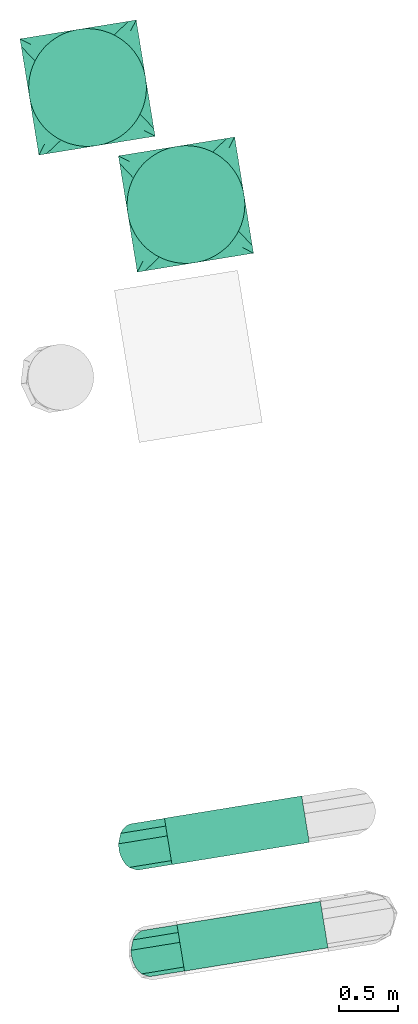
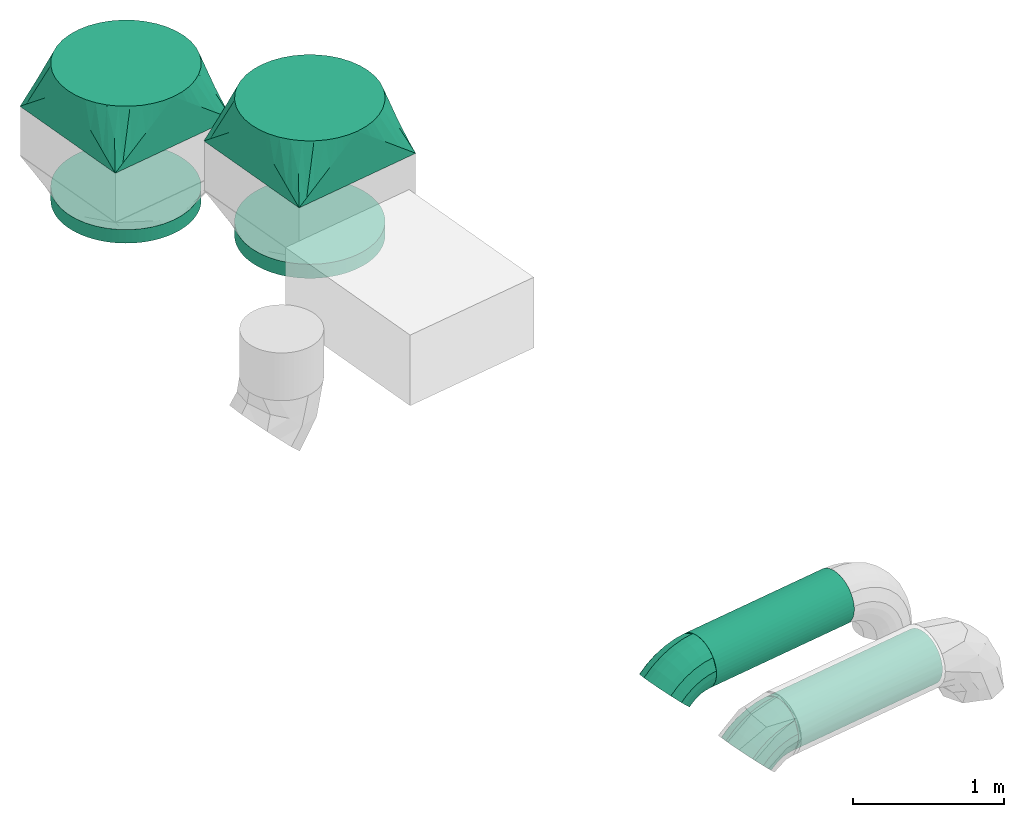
# One storey, part 3 of 6: 4 flow fittings, 4 flow segments.
"""IFC2X3 building model written with IfcOpenShell, lengths in millimetres."""

import ifcopenshell
import ifcopenshell.guid

model = None  # the IFC model being written
_history = None  # IfcOwnerHistory: only IFC2X3 demands one
_inside = {}  # id of a spatial element -> (the spatial element, [elements in it])
_under = {}  # id of a project, library or spatial element -> (it, [spatial elements below it])
_declared = {}  # id of a project -> (the project, [libraries it declares])
_typed = {}  # id of a type object -> (the type object, [elements of that type])
_made_of = {}  # id of a material, layer set ... -> (it, [elements and type objects made of it])


def new_model(schema):
    """Start an empty IFC model of exactly this schema.

    Asked for "IFC4X3", IfcOpenShell would pick the latest addendum, in which some entities
    have other attributes; the version numbers below select the first issue.
    IFC2X3 requires an IfcOwnerHistory on every rooted entity: one is made here for all.
    """
    global model, _history
    if schema == "IFC4X3":
        model = ifcopenshell.file(schema_version=(4, 3, 0, 0))
    else:
        model = ifcopenshell.file(schema=schema)
    _inside.clear()
    _under.clear()
    _declared.clear()
    _typed.clear()
    _made_of.clear()
    _history = None
    if model.schema == "IFC2X3":
        org = make("IfcOrganization", Name="unknown")
        user = make(
            "IfcPersonAndOrganization",
            ThePerson=make("IfcPerson", FamilyName="unknown"),
            TheOrganization=org,
        )
        app = make(
            "IfcApplication",
            ApplicationDeveloper=org,
            Version="unknown",
            ApplicationFullName="unknown",
            ApplicationIdentifier="unknown",
        )
        _history = make(
            "IfcOwnerHistory",
            OwningUser=user,
            OwningApplication=app,
            ChangeAction="ADDED",
            CreationDate=0,
        )
    return model


def make(cls, **values):
    """One entity of the class cls with the attributes given. An attribute that is None is left unset."""
    return model.create_entity(
        cls, **{name: value for name, value in values.items() if value is not None}
    )


def entity(cls, *values):
    """Any entity or typed value of the class cls, its attributes in the order of the schema. None: left unset."""
    e = model.create_entity(cls)
    for i, value in enumerate(values):
        if value is not None:
            e[i] = value
    return e


def rooted(cls, **values):
    """An entity with a GlobalId (a new one), such as an element, a storey or a relation."""
    return make(cls, GlobalId=ifcopenshell.guid.new(), OwnerHistory=_history, **values)


def si_unit(unit_type, name, prefix=None):
    """IfcSIUnit, for example si_unit("LENGTHUNIT", "METRE", prefix="MILLI")."""
    return make("IfcSIUnit", UnitType=unit_type, Prefix=prefix, Name=name)


def converted_unit(unit_type, name, factor, base, dimensions=None, offset=None):
    """IfcConversionBasedUnit, such as the inch: factor (a typed value) times the base unit."""
    return make(
        "IfcConversionBasedUnit"
        if offset is None
        else "IfcConversionBasedUnitWithOffset",
        ConversionOffset=offset,
        Dimensions=None
        if dimensions is None
        else entity("IfcDimensionalExponents", *dimensions),
        UnitType=unit_type,
        Name=name,
        ConversionFactor=make(
            "IfcMeasureWithUnit", ValueComponent=factor, UnitComponent=base
        ),
    )


def derived_unit(unit_type, elements):
    """IfcDerivedUnit: a product of units, each with its exponent."""
    return make(
        "IfcDerivedUnit",
        Elements=[
            make("IfcDerivedUnitElement", Unit=unit, Exponent=power)
            for unit, power in elements
        ],
        UnitType=unit_type,
    )


def assignment(units):
    """IfcUnitAssignment: the units of a project."""
    return None if units is None else make("IfcUnitAssignment", Units=units)


def point(xyz):
    """IfcCartesianPoint."""
    return None if xyz is None else make("IfcCartesianPoint", Coordinates=xyz)


def direction(xyz):
    """IfcDirection."""
    return None if xyz is None else make("IfcDirection", DirectionRatios=xyz)


def frame(location, z_axis=None, x_axis=None):
    """IfcAxis2Placement3D, a coordinate frame: its origin and axes. An axis left out is left unset."""
    return make(
        "IfcAxis2Placement3D",
        Location=point(location),
        Axis=direction(z_axis),
        RefDirection=direction(x_axis),
    )


def frame_2d(location, x_axis=None):
    """IfcAxis2Placement2D, a coordinate frame in the plane: its origin and x axis."""
    return make(
        "IfcAxis2Placement2D", Location=point(location), RefDirection=direction(x_axis)
    )


def origin():
    """The frame at (0, 0, 0) with its axes left unset."""
    return frame((0.0, 0.0, 0.0))


def origin_with_axes():
    """The frame at (0, 0, 0) with the z axis (0, 0, 1) and the x axis (1, 0, 0) written out."""
    return frame((0.0, 0.0, 0.0), z_axis=(0.0, 0.0, 1.0), x_axis=(1.0, 0.0, 0.0))


def origin_2d_with_axis():
    """The frame at (0, 0) in the plane with the x axis (1, 0) written out."""
    return frame_2d((0.0, 0.0), x_axis=(1.0, 0.0))


def place(relative_to, where):
    """IfcLocalPlacement: puts the frame where relative to a parent placement (None: the world)."""
    return make(
        "IfcLocalPlacement", PlacementRelTo=relative_to, RelativePlacement=where
    )


def context(
    kind, dimensions, precision=None, world=None, true_north=None, identifier=None
):
    """IfcGeometricRepresentationContext, for example the 3D "Model" context."""
    return make(
        "IfcGeometricRepresentationContext",
        ContextIdentifier=identifier,
        ContextType=kind,
        CoordinateSpaceDimension=dimensions,
        Precision=precision,
        WorldCoordinateSystem=world,
        TrueNorth=true_north,
    )


def subcontext(parent, identifier, kind, view, scale=None):
    """IfcGeometricRepresentationSubContext, for example "Body" below "Model"."""
    return make(
        "IfcGeometricRepresentationSubContext",
        ContextIdentifier=identifier,
        ContextType=kind,
        ParentContext=parent,
        TargetScale=scale,
        TargetView=view,
    )


def project(units=None, contexts=None):
    """IfcProject with its units and contexts."""
    return rooted(
        "IfcProject",
        Name="project",
        RepresentationContexts=contexts,
        UnitsInContext=assignment(units),
    )


def spatial(cls, under=None, at=None, **own):
    """A site, building, storey or space (cls), placed at a placement, below another one or the project."""
    s = rooted(cls, ObjectPlacement=at, **own)
    if under is not None:
        _under.setdefault(under.id(), (under, []))[1].append(s)
    return s


def profile(cls, at=None, kind="AREA", **sizes):
    """A parametric profile (cls). Its sizes go by their IFC names, for example OverallWidth=200.0."""
    return make(cls, ProfileType=kind, Position=at, **sizes)


def circle(**sizes):
    """IfcCircleProfileDef."""
    return profile("IfcCircleProfileDef", **sizes)


def extrude(swept, where, along, depth):
    """IfcExtrudedAreaSolid: the profile swept, set in the frame where, extruded along a direction by depth."""
    return make(
        "IfcExtrudedAreaSolid",
        SweptArea=swept,
        Position=where,
        ExtrudedDirection=direction(along),
        Depth=depth,
    )


def faces_of(points, faces, orient=None, outer=None):
    """IfcFace entities. A face is a list of loops; a loop is a list of indices into points, from 0.

    orient and outer hold one flag for each loop. By default every Orientation is true, the
    first loop of a face is its IfcFaceOuterBound and the others are IfcFaceBound.
    """
    made = []
    for i, loops in enumerate(faces):
        bounds = []
        for j, loop in enumerate(loops):
            is_outer = j == 0 if outer is None else outer[i][j]
            bounds.append(
                make(
                    "IfcFaceOuterBound" if is_outer else "IfcFaceBound",
                    Bound=make("IfcPolyLoop", Polygon=[points[k] for k in loop]),
                    Orientation=True if orient is None else orient[i][j],
                )
            )
        made.append(make("IfcFace", Bounds=bounds))
    return made


def faceted_brep(points, faces, orient=None, outer=None, voids=None):
    """IfcFacetedBrep: a solid bounded by flat faces; with voids (closed shells), ...WithVoids."""
    shared = [point(p) for p in points]
    hull = make("IfcClosedShell", CfsFaces=faces_of(shared, faces, orient, outer))
    if voids is None:
        return make("IfcFacetedBrep", Outer=hull)
    return make(
        "IfcFacetedBrepWithVoids",
        Outer=hull,
        Voids=[
            make(cls, CfsFaces=faces_of(shared, fs, o, b)) for cls, fs, o, b in voids
        ],
    )


def shape(context_of_items, identifier, shape_type, items):
    """IfcShapeRepresentation: the items that make up one representation, for example the "Body"."""
    return make(
        "IfcShapeRepresentation",
        ContextOfItems=context_of_items,
        RepresentationIdentifier=identifier,
        RepresentationType=shape_type,
        Items=items,
    )


def source(mapping_origin, context_of_items, identifier, shape_type, items):
    """IfcRepresentationMap: a shape defined once, which mapped items show again and again."""
    return make(
        "IfcRepresentationMap",
        MappingOrigin=mapping_origin,
        MappedRepresentation=shape(context_of_items, identifier, shape_type, items),
    )


def transform(
    local_origin,
    x_axis=None,
    y_axis=None,
    z_axis=None,
    scale=None,
    scale2=None,
    scale3=None,
    uniform=True,
):
    """IfcCartesianTransformationOperator3D, or its non-uniform kind. x_axis, y_axis, z_axis: its Axis1, 2, 3."""
    if uniform:
        return make(
            "IfcCartesianTransformationOperator3D",
            Axis1=direction(x_axis),
            Axis2=direction(y_axis),
            LocalOrigin=point(local_origin),
            Scale=scale,
            Axis3=direction(z_axis),
        )
    return make(
        "IfcCartesianTransformationOperator3DnonUniform",
        Axis1=direction(x_axis),
        Axis2=direction(y_axis),
        LocalOrigin=point(local_origin),
        Scale=scale,
        Axis3=direction(z_axis),
        Scale2=scale2,
        Scale3=scale3,
    )


def mapped(mapping_source, mapping_target):
    """IfcMappedItem: shows the shape of a source again, moved by a transform."""
    return make(
        "IfcMappedItem", MappingSource=mapping_source, MappingTarget=mapping_target
    )


def material(Name=None, Category=None):
    """IfcMaterial."""
    return make("IfcMaterial", Name=Name, Category=Category)


def made_of(thing, what):
    """Note that an element or type object is made of a material, layer set ...; save() writes the relation."""
    if what is not None:
        _made_of.setdefault(what.id(), (what, []))[1].append(thing)
    return thing


def type_object(cls, material=None, **own):
    """A type object (cls), such as IfcWallType, which elements share."""
    return made_of(rooted(cls, **own), material)


def element(
    cls,
    number,
    at=None,
    inside=None,
    cuts=None,
    type_object=None,
    material=None,
    context=None,
    identifier="Body",
    shape_type=None,
    held_by="IfcProductDefinitionShape",
    body=None,
    shapes=None,
    **own,
):
    """One element of the class cls, such as IfcWall. Its Tag is "e" and its number.

    at: its placement. inside: the storey or other place that contains it. cuts: it is an
    opening in that element (IfcRelVoidsElement). A single representation is given by context,
    identifier, shape_type and body (its items); several are given by shapes. held_by: the class
    of the entity that holds the representations. save() writes the other relations.
    """
    e = rooted(cls, Tag="e%d" % number, ObjectPlacement=at, **own)
    if body is not None:
        shapes = [shape(context, identifier, shape_type, body)]
    if shapes is not None:
        e.Representation = make(held_by, Representations=shapes)
    if inside is not None:
        _inside.setdefault(inside.id(), (inside, []))[1].append(e)
    if cuts is not None:
        rooted(
            "IfcRelVoidsElement", RelatingBuildingElement=cuts, RelatedOpeningElement=e
        )
    if type_object is not None:
        _typed.setdefault(type_object.id(), (type_object, []))[1].append(e)
    return made_of(e, material)


def aggregate(whole, parts):
    """IfcRelAggregates: a whole, such as a stair, and the parts it consists of."""
    return rooted("IfcRelAggregates", RelatingObject=whole, RelatedObjects=parts)


def save(model, path):
    """Write the relations noted so far, then the file.

    IfcRelAggregates (storeys below a building ...), IfcRelContainedInSpatialStructure (elements
    in a storey), IfcRelDefinesByType, IfcRelAssociatesMaterial and IfcRelDeclares: one each for
    every whole, place, type object, material and project.
    """
    for whole, parts in _under.values():
        aggregate(whole, parts)
    for where, things in _inside.values():
        rooted(
            "IfcRelContainedInSpatialStructure",
            RelatedElements=things,
            RelatingStructure=where,
        )
    for kind, things in _typed.values():
        rooted("IfcRelDefinesByType", RelatedObjects=things, RelatingType=kind)
    for what, things in _made_of.values():
        rooted("IfcRelAssociatesMaterial", RelatedObjects=things, RelatingMaterial=what)
    for by, libraries in _declared.values():
        rooted("IfcRelDeclares", RelatingContext=by, RelatedDefinitions=libraries)
    model.write(path)


model = new_model("IFC2X3")

# Units and contexts
model_context = context("Model", 3, precision=0.01, world=origin(), true_north=direction((6.12323399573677e-17, 1.0)))
plan_context = context("Plan", 3, precision=1e-05, world=origin_with_axes())
body_context = subcontext(model_context, "Body", "Model", "MODEL_VIEW")
ifc_project = project(units=[converted_unit("PLANEANGLEUNIT", "DEGREE", entity("IfcPositiveLengthMeasure", 0.0174532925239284), si_unit("PLANEANGLEUNIT", "RADIAN"), dimensions=[0, 0, 0, 0, 0, 0, 0]), si_unit("AREAUNIT", "SQUARE_METRE"), si_unit("LENGTHUNIT", "METRE", prefix="MILLI"), si_unit("MASSUNIT", "GRAM", prefix="KILO"), si_unit("POWERUNIT", "WATT"), si_unit("PRESSUREUNIT", "PASCAL", prefix="KILO"), si_unit("FORCEUNIT", "NEWTON", prefix="KILO"), si_unit("ELECTRICVOLTAGEUNIT", "VOLT"), si_unit("ELECTRICCURRENTUNIT", "AMPERE"), si_unit("THERMODYNAMICTEMPERATUREUNIT", "DEGREE_CELSIUS"), si_unit("TIMEUNIT", "SECOND"), si_unit("VOLUMEUNIT", "CUBIC_METRE"), derived_unit("LINEARVELOCITYUNIT", [(si_unit("LENGTHUNIT", "METRE"), 1), (si_unit("TIMEUNIT", "SECOND"), -1)]), derived_unit("VOLUMETRICFLOWRATEUNIT", [(si_unit("VOLUMEUNIT", "CUBIC_METRE"), 1), (si_unit("TIMEUNIT", "SECOND"), -1)]), derived_unit("THERMALTRANSMITTANCEUNIT", [(si_unit("POWERUNIT", "WATT"), 1), (si_unit("THERMODYNAMICTEMPERATUREUNIT", "KELVIN"), -1), (si_unit("AREAUNIT", "SQUARE_METRE"), -1)]), derived_unit("SOUNDPRESSUREUNIT", [(si_unit("PRESSUREUNIT", "PASCAL"), 1)])], contexts=[model_context, plan_context])

# Site, building, storey
site_placement = place(None, frame((-0.00071070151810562, 0.00438415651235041, 0.0), z_axis=(0.0, 0.0, 1.0), x_axis=(-0.160236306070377, 0.987078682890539, 0.0)))
site = spatial("IfcSite", under=ifc_project, at=site_placement, Name="Default", CompositionType="ELEMENT")
building_placement = place(site_placement, origin_with_axes())
building = spatial("IfcBuilding", under=site, at=building_placement, CompositionType="ELEMENT")
storey_placement = place(building_placement, frame((0.0, 0.0, 48160.0), z_axis=(0.0, 0.0, 1.0), x_axis=(1.0, 0.0, 0.0)))
storey = spatial("IfcBuildingStorey", under=building, at=storey_placement, Name="Nivå C", CompositionType="ELEMENT", Elevation=48160.0)

# Flow fittings
ifc_material_1 = material(Name="<Unnamed>")
duct_fitting_type_1 = type_object("IfcDuctFittingType", Name="magicirc_elbow_full_radius_1:magicirc_elbow_full_radius_001", PredefinedType="NOTDEFINED", material=ifc_material_1)
shared_shape_1 = source(origin(), body_context, "Body", "Brep", [
    faceted_brep([(-71.8247459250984, -192.613004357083, 0.0), (-72.7338861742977, -186.872918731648, 47.8631328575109), (-165.685424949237, -194.188363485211, 47.8631328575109), (-165.685424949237, -200.0, 0.0), (-75.4084709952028, -169.986254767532, 92.9446344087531), (-165.685424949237, -177.091205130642, 92.9446344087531), (-79.6930632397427, -142.934403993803, 132.624531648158), (-165.685424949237, -149.702149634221, 132.624531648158), (-85.338657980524, -107.289521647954, 164.596773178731), (-165.685424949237, -113.612949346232, 164.596773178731), (-99.3404207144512, -18.8858709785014, 198.541774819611), (-165.685424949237, -24.1073360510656, 198.541774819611), (-106.882857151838, 28.7351985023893, 198.541774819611), (-165.685424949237, 24.1073360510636, 198.541774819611), (-114.206124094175, 74.9724862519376, 187.003248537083), (-165.685424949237, 70.9209774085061, 187.003248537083), (-120.884619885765, 117.138849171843, 164.596773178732), (-165.685424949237, 113.61294934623, 164.596773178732), (-126.530214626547, 152.783731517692, 132.62453164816), (-165.685424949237, 149.702149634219, 132.62453164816), (-133.489391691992, 196.722246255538, 47.8631328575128), (-165.685424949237, 194.18836348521, 47.8631328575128), (-134.398531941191, 202.462331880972, 0.0), (-165.685424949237, 200.0, 0.0), (-133.489391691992, 196.722246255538, -47.8631328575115), (-165.685424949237, 194.18836348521, -47.8631328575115), (-130.814806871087, 179.835582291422, -92.9446344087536), (-165.685424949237, 177.091205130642, -92.9446344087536), (-126.530214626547, 152.783731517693, -132.624531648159), (-165.685424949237, 149.70214963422, -132.624531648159), (-120.884619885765, 117.138849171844, -164.596773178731), (-165.685424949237, 113.612949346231, -164.596773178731), (-106.882857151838, 28.7351985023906, -198.541774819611), (-165.685424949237, 24.1073360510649, -198.541774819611), (-99.3404207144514, -18.8858709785, -198.541774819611), (-165.685424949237, -24.1073360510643, -198.541774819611), (-92.0171537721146, -65.1231587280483, -187.003248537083), (-165.685424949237, -70.9209774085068, -187.003248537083), (-85.3386579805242, -107.289521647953, -164.596773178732), (-165.685424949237, -113.612949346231, -164.596773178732), (-79.6930632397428, -142.934403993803, -132.624531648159), (-165.685424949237, -149.70214963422, -132.624531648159), (-72.7338861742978, -186.872918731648, -47.8631328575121), (-165.685424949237, -194.18836348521, -47.8631328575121), (19.7247716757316, -170.633909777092, 0.0), (17.9288772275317, -165.106714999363, 47.8631328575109), (12.6455647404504, -148.84635113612, 92.9446344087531), (4.18188113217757, -122.797811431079, 132.624531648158), (-6.97029507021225, -88.4749423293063, 164.596773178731), (-34.629050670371, -3.3500455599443, 198.541774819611), (-49.5282037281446, 42.5048325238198, 198.541774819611), (-63.9944144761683, 87.0272511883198, 187.003248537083), (-77.1869593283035, 127.629729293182, 164.596773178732), (-88.3391355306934, 161.952598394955, 132.62453164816), (-102.086131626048, 204.26150196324, 47.8631328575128), (-103.882026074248, 209.788696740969, 0.0), (-102.086131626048, 204.26150196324, -47.8631328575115), (-96.8028191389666, 188.001138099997, -92.9446344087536), (-88.3391355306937, 161.952598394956, -132.624531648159), (-77.1869593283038, 127.629729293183, -164.596773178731), (-49.528203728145, 42.5048325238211, -198.541774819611), (-34.6290506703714, -3.35004555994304, -198.541774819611), (-20.1628399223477, -47.872464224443, -187.003248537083), (-6.9702950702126, -88.4749423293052, -164.596773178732), (4.1818811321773, -122.797811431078, -132.624531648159), (17.9288772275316, -165.106714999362, -47.8631328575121), (106.708874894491, -134.60391451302, 0.0), (104.070447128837, -129.425708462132, 47.8631328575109), (96.3084996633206, -114.19202882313, 92.9446344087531), (83.874128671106, -89.7882016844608, 132.624531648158), (67.4899745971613, -57.632488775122, 164.596773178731), (26.8552764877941, 22.1175966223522, 198.541774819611), (4.96627340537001, 65.0771840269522, 198.541774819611), (-16.2866750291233, 106.788443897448, 187.003248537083), (-35.6684247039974, 144.827269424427, 164.596773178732), (-52.0525787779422, 176.982982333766, 132.62453164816), (-72.2488972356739, 216.620489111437, 47.8631328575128), (-74.887325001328, 221.798695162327, 0.0), (-72.2488972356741, 216.620489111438, -47.8631328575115), (-64.4869497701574, 201.386809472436, -92.9446344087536), (-52.0525787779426, 176.982982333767, -132.624531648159), (-35.6684247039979, 144.827269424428, -164.596773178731), (4.96627340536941, 65.0771840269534, -198.541774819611), (26.8552764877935, 22.1175966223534, -198.541774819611), (48.1082249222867, -19.5936632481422, -187.003248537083), (67.4899745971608, -57.632488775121, -164.596773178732), (83.8741286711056, -89.78820168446, -132.624531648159), (104.070447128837, -129.425708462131, -47.8631328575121), (186.985726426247, -85.4101966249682, 0.0), (183.569732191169, -80.7084839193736, 47.8631328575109), (173.520274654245, -66.8765922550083, 92.9446344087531), (157.421391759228, -44.7183808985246, 132.624531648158), (136.208692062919, -15.5216045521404, 164.596773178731), (83.5986125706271, 56.8899576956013, 198.541774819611), (55.2587393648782, 95.8964468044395, 198.541774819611), (27.7423713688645, 133.769478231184, 187.003248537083), (2.64865987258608, 168.308009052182, 164.596773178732), (-18.5640398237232, 197.504785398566, 132.62453164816), (-44.7123802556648, 233.494888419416, 47.8631328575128), (-48.1283744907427, 238.196601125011, 0.0), (-44.712380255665, 233.494888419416, -47.8631328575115), (-34.6629227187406, 219.66299675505, -92.9446344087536), (-18.5640398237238, 197.504785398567, -132.624531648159), (2.64865987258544, 168.308009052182, -164.596773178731), (55.2587393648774, 95.8964468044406, -198.541774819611), (83.5986125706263, 56.8899576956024, -198.541774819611), (111.11498056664, 19.0169262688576, -187.003248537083), (136.208692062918, -15.5216045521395, -164.596773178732), (157.421391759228, -44.7183808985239, -132.624531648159), (183.569732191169, -80.7084839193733, -47.8631328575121), (258.578643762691, -24.2640687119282, 0.0), (254.469196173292, -20.1546211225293, 47.8631328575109), (242.379679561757, -8.06510451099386, 92.9446344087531), (223.012692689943, 11.3018823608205, 132.624531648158), (197.493774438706, 36.820800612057, 164.596773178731), (134.203748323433, 100.11082672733, 198.541774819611), (100.110826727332, 134.203748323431, 198.541774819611), (67.0085834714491, 167.305991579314, 187.003248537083), (36.8208006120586, 197.493774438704, 164.596773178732), (11.3018823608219, 223.012692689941, 132.62453164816), (-20.1546211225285, 254.469196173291, 47.8631328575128), (-24.2640687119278, 258.578643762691, 0.0), (-20.1546211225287, 254.469196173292, -47.8631328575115), (-8.0651045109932, 242.379679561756, -92.9446344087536), (11.3018823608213, 223.012692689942, -132.624531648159), (36.8208006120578, 197.493774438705, -164.596773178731), (100.110826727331, 134.203748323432, -198.541774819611), (134.203748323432, 100.110826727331, -198.541774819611), (167.305991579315, 67.0085834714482, -187.003248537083), (197.493774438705, 36.8208006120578, -164.596773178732), (223.012692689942, 11.3018823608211, -132.624531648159), (254.469196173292, -20.1546211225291, -47.8631328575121)], [[[0, 1, 2, 3]], [[1, 4, 5, 2]], [[4, 6, 7, 5]], [[6, 8, 9, 7]], [[8, 10, 11, 9]], [[10, 12, 13, 11]], [[12, 14, 15, 13]], [[14, 16, 17, 15]], [[16, 18, 19, 17]], [[18, 20, 21, 19]], [[20, 22, 23, 21]], [[22, 24, 25, 23]], [[24, 26, 27, 25]], [[26, 28, 29, 27]], [[28, 30, 31, 29]], [[30, 32, 33, 31]], [[32, 34, 35, 33]], [[34, 36, 37, 35]], [[36, 38, 39, 37]], [[38, 40, 41, 39]], [[40, 42, 43, 41]], [[42, 0, 3, 43]], [[44, 45, 1, 0]], [[45, 46, 4, 1]], [[46, 47, 6, 4]], [[47, 48, 8, 6]], [[48, 49, 10, 8]], [[49, 50, 12, 10]], [[50, 51, 14, 12]], [[51, 52, 16, 14]], [[52, 53, 18, 16]], [[53, 54, 20, 18]], [[54, 55, 22, 20]], [[55, 56, 24, 22]], [[56, 57, 26, 24]], [[57, 58, 28, 26]], [[58, 59, 30, 28]], [[59, 60, 32, 30]], [[60, 61, 34, 32]], [[61, 62, 36, 34]], [[62, 63, 38, 36]], [[63, 64, 40, 38]], [[64, 65, 42, 40]], [[65, 44, 0, 42]], [[66, 67, 45, 44]], [[67, 68, 46, 45]], [[68, 69, 47, 46]], [[69, 70, 48, 47]], [[70, 71, 49, 48]], [[71, 72, 50, 49]], [[72, 73, 51, 50]], [[73, 74, 52, 51]], [[74, 75, 53, 52]], [[75, 76, 54, 53]], [[76, 77, 55, 54]], [[77, 78, 56, 55]], [[78, 79, 57, 56]], [[79, 80, 58, 57]], [[80, 81, 59, 58]], [[81, 82, 60, 59]], [[82, 83, 61, 60]], [[83, 84, 62, 61]], [[84, 85, 63, 62]], [[85, 86, 64, 63]], [[86, 87, 65, 64]], [[87, 66, 44, 65]], [[88, 89, 67, 66]], [[89, 90, 68, 67]], [[90, 91, 69, 68]], [[91, 92, 70, 69]], [[92, 93, 71, 70]], [[93, 94, 72, 71]], [[94, 95, 73, 72]], [[95, 96, 74, 73]], [[96, 97, 75, 74]], [[97, 98, 76, 75]], [[98, 99, 77, 76]], [[99, 100, 78, 77]], [[100, 101, 79, 78]], [[101, 102, 80, 79]], [[102, 103, 81, 80]], [[103, 104, 82, 81]], [[104, 105, 83, 82]], [[105, 106, 84, 83]], [[106, 107, 85, 84]], [[107, 108, 86, 85]], [[108, 109, 87, 86]], [[109, 88, 66, 87]], [[110, 111, 89, 88]], [[111, 112, 90, 89]], [[112, 113, 91, 90]], [[113, 114, 92, 91]], [[114, 115, 93, 92]], [[115, 116, 94, 93]], [[116, 117, 95, 94]], [[117, 118, 96, 95]], [[118, 119, 97, 96]], [[119, 120, 98, 97]], [[120, 121, 99, 98]], [[121, 122, 100, 99]], [[122, 123, 101, 100]], [[123, 124, 102, 101]], [[124, 125, 103, 102]], [[125, 126, 104, 103]], [[126, 127, 105, 104]], [[127, 128, 106, 105]], [[128, 129, 107, 106]], [[129, 130, 108, 107]], [[130, 131, 109, 108]], [[131, 110, 88, 109]], [[3, 2, 5, 7, 9, 11, 13, 15, 17, 19, 21, 23, 25, 27, 29, 31, 33, 35, 37, 39, 41, 43]], [[131, 130, 129, 128, 127, 126, 125, 124, 123, 122, 121, 120, 119, 118, 117, 116, 115, 114, 113, 112, 111, 110]]]),
])
for number, where, z_axis, x_axis, name in (
    (1, (771678.1172552, -595100.400360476, 1950.0), (-1.0, 0.0, 0.0), (0.0, 1.0, 0.0), "magicirc_elbow_full_radius_1:magicirc_elbow_full_radius_001"),
    (2, (772587.619644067, -595140.400360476, 1950.0), (-1.0, 0.0, 0.0), (0.0, 1.0, 0.0), "magicirc_elbow_full_radius_1:magicirc_elbow_full_radius_001"),
):
    element("IfcFlowFitting", number, at=place(storey_placement, frame(where, z_axis=z_axis, x_axis=x_axis)), inside=storey, type_object=duct_fitting_type_1, material=ifc_material_1, Name=name, ObjectType="magicirc_elbow_full_radius_1:magicirc_elbow_full_radius_001", context=body_context, shape_type="MappedRepresentation", body=[
        mapped(shared_shape_1, transform((0.0, 0.0, 0.0), scale=1.0)),
    ])
ifc_material_2 = material(Name="Material_Duct")
duct_fitting_type_2 = type_object("IfcDuctFittingType", Name="magicirc_multi_shape_trans_001:magicirc_multi_shape_trans_001", PredefinedType="NOTDEFINED", material=ifc_material_2)
shared_shape_2 = source(origin(), body_context, "Body", "Brep", [
    faceted_brep([(400.0, -293.892626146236, 404.508497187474), (400.0, -353.553390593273, 353.553390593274), (400.0, -404.508497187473, 293.892626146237), (400.0, -445.503262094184, 226.995249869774), (400.0, -475.528258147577, 154.508497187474), (400.0, -484.686214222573, 116.362864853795), (400.0, -493.844170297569, 78.2172325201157), (400.0, -496.200105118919, 48.2822423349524), (400.0, -500.0, 0.0), (400.0, -496.200105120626, -48.2822423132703), (400.0, -493.844170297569, -78.2172325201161), (400.0, -484.686214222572, -116.362864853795), (400.0, -475.528258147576, -154.508497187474), (400.0, -445.503262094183, -226.995249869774), (400.0, -404.508497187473, -293.892626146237), (400.0, -353.553390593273, -353.553390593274), (400.0, -293.892626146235, -404.508497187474), (400.0, -226.995249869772, -445.503262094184), (400.0, -154.508497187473, -475.528258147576), (400.0, -116.362864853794, -484.686214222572), (400.0, -78.2172325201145, -493.844170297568), (400.0, -48.2822423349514, -496.200105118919), (400.0, 0.0, -500.0), (400.0, 48.2822423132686, -496.200105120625), (400.0, 78.2172325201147, -493.844170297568), (400.0, 116.362864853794, -484.686214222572), (400.0, 154.508497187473, -475.528258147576), (400.0, 226.995249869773, -445.503262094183), (400.0, 293.892626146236, -404.508497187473), (400.0, 353.553390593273, -353.553390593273), (400.0, 404.508497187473, -293.892626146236), (400.0, 445.503262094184, -226.995249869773), (400.0, 475.528258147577, -154.508497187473), (400.0, 484.686214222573, -116.362864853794), (400.0, 493.844170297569, -78.2172325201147), (400.0, 496.200105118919, -48.2822423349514), (400.0, 500.0, 0.0), (400.0, 496.200105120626, 48.282242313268), (400.0, 493.844170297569, 78.2172325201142), (400.0, 484.686214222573, 116.362864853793), (400.0, 475.528258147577, 154.508497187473), (400.0, 445.503262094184, 226.995249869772), (400.0, 404.508497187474, 293.892626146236), (400.0, 353.553390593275, 353.553390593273), (400.0, 293.892626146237, 404.508497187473), (400.0, 226.995249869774, 445.503262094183), (400.0, 154.508497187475, 475.528258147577), (400.0, 116.362864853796, 484.686214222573), (400.0, 78.2172325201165, 493.844170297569), (400.0, 48.2822423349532, 496.200105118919), (400.0, 0.0, 500.0), (400.0, -48.2822423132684, 496.200105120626), (400.0, -78.2172325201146, 493.844170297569), (400.0, -116.362864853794, 484.686214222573), (400.0, -154.508497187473, 475.528258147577), (400.0, -226.995249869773, 445.503262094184), (0.0, -500.0, 500.0), (0.0, 500.0, 500.0), (0.0, 500.0, -500.0), (0.0, -500.0, -500.0), (52.0571133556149, -434.928608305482, 500.0), (200.000000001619, -415.753070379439, 437.152129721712), (208.228453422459, -239.714433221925, 500.0), (156.171340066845, -304.785824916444, 500.0), (104.11422671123, -369.857216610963, 500.0), (304.114223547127, -500.0, 119.857220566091), (256.171335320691, -500.0, 179.785830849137), (352.057113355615, -59.9286083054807, 500.0), (328.085670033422, -89.8929124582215, 500.0), (304.11422671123, -119.857216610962, 500.0), (256.171340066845, -179.785824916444, 500.0), (208.228447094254, -500.0, 239.714441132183), (104.114223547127, -500.0, 369.857220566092), (156.171335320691, -500.0, 304.785830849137), (52.0571117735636, -500.0, 434.928610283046), (328.085667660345, -500.0, 89.8929154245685), (352.057111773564, -500.0, 59.9286102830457), (52.0571133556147, -500.0, -434.928608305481), (104.11422671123, -500.0, -369.857216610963), (156.171340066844, -500.0, -304.785824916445), (208.228453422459, -500.0, -239.714433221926), (256.171340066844, -500.0, -179.785824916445), (304.114226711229, -500.0, -119.857216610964), (328.085670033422, -500.0, -89.8929124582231), (352.057113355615, -500.0, -59.9286083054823), (200.000000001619, -437.152129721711, -415.753070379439), (304.114223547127, -119.857220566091, -500.0), (256.17133532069, -179.785830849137, -500.0), (208.228447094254, -239.714441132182, -500.0), (104.114223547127, -369.857220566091, -500.0), (156.17133532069, -304.785830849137, -500.0), (52.0571117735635, -434.928610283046, -500.0), (328.085667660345, -89.8929154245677, -500.0), (352.057111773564, -59.9286102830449, -500.0), (52.0571133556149, 434.92860830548, -500.0), (104.11422671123, 369.857216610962, -500.0), (156.171340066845, 304.785824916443, -500.0), (208.228453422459, 239.714433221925, -500.0), (256.171340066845, 179.785824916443, -500.0), (304.11422671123, 119.857216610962, -500.0), (328.085670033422, 89.8929124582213, -500.0), (352.057113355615, 59.9286083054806, -500.0), (200.000000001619, 415.753070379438, -437.15212972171), (304.114223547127, 500.0, -119.85722056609), (256.171335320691, 500.0, -179.785830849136), (208.228447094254, 500.0, -239.714441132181), (104.114223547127, 500.0, -369.85722056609), (156.171335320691, 500.0, -304.785830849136), (52.0571117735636, 500.0, -434.928610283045), (328.085667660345, 500.0, -89.8929154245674), (352.057111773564, 500.0, -59.9286102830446), (52.0571133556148, 500.0, 434.928608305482), (104.11422671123, 500.0, 369.857216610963), (156.171340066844, 500.0, 304.785824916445), (208.228453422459, 500.0, 239.714433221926), (256.171340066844, 500.0, 179.785824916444), (304.11422671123, 500.0, 119.857216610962), (328.085670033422, 500.0, 89.8929124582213), (352.057113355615, 500.0, 59.9286083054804), (200.000000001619, 437.152129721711, 415.753070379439), (304.114223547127, 119.857220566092, 500.0), (256.171335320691, 179.785830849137, 500.0), (208.228447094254, 239.714441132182, 500.0), (104.114223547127, 369.857220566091, 500.0), (156.171335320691, 304.785830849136, 500.0), (52.0571117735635, 434.928610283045, 500.0), (328.085667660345, 89.8929154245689, 500.0), (352.057111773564, 59.9286102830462, 500.0)], [[[0, 1, 2, 3, 4, 5, 6, 7, 8, 9, 10, 11, 12, 13, 14, 15, 16, 17, 18, 19, 20, 21, 22, 23, 24, 25, 26, 27, 28, 29, 30, 31, 32, 33, 34, 35, 36, 37, 38, 39, 40, 41, 42, 43, 44, 45, 46, 47, 48, 49, 50, 51, 52, 53, 54, 55]], [[56, 57, 58, 59]], [[0, 60, 61]], [[55, 62, 63, 64]], [[65, 5, 66]], [[52, 51, 50, 67, 68, 69]], [[53, 52, 69]], [[54, 62, 55]], [[53, 70, 54]], [[4, 71, 66]], [[66, 5, 4]], [[60, 56, 61]], [[3, 72, 73, 71]], [[70, 62, 54]], [[61, 74, 1]], [[4, 3, 71]], [[75, 76, 8, 7, 6, 65]], [[2, 74, 72]], [[64, 0, 55]], [[65, 6, 5]], [[70, 53, 69]], [[0, 64, 60]], [[74, 2, 1]], [[0, 61, 1]], [[61, 56, 74]], [[72, 3, 2]], [[76, 75, 65, 66, 71, 73, 72, 74, 56, 59, 77, 78, 79, 80, 81, 82, 83, 84, 8]], [[14, 77, 85]], [[13, 80, 79, 78]], [[86, 19, 87]], [[10, 9, 8, 84, 83, 82]], [[11, 10, 82]], [[12, 80, 13]], [[11, 81, 12]], [[18, 88, 87]], [[87, 19, 18]], [[77, 59, 85]], [[17, 89, 90, 88]], [[81, 80, 12]], [[85, 91, 15]], [[18, 17, 88]], [[92, 93, 22, 21, 20, 86]], [[16, 91, 89]], [[78, 14, 13]], [[86, 20, 19]], [[81, 11, 82]], [[14, 78, 77]], [[91, 16, 15]], [[14, 85, 15]], [[85, 59, 91]], [[89, 17, 16]], [[59, 58, 94, 95, 96, 97, 98, 99, 100, 101, 22, 93, 92, 86, 87, 88, 90, 89, 91]], [[28, 94, 102]], [[27, 97, 96, 95]], [[103, 33, 104]], [[24, 23, 22, 101, 100, 99]], [[25, 24, 99]], [[26, 97, 27]], [[25, 98, 26]], [[32, 105, 104]], [[104, 33, 32]], [[94, 58, 102]], [[31, 106, 107, 105]], [[98, 97, 26]], [[102, 108, 29]], [[32, 31, 105]], [[109, 110, 36, 35, 34, 103]], [[30, 108, 106]], [[95, 28, 27]], [[103, 34, 33]], [[98, 25, 99]], [[28, 95, 94]], [[108, 30, 29]], [[28, 102, 29]], [[102, 58, 108]], [[106, 31, 30]], [[58, 57, 111, 112, 113, 114, 115, 116, 117, 118, 36, 110, 109, 103, 104, 105, 107, 106, 108]], [[42, 111, 119]], [[41, 114, 113, 112]], [[120, 47, 121]], [[38, 37, 36, 118, 117, 116]], [[39, 38, 116]], [[40, 114, 41]], [[39, 115, 40]], [[46, 122, 121]], [[121, 47, 46]], [[111, 57, 119]], [[45, 123, 124, 122]], [[115, 114, 40]], [[119, 125, 43]], [[46, 45, 122]], [[126, 127, 50, 49, 48, 120]], [[44, 125, 123]], [[112, 42, 41]], [[120, 48, 47]], [[115, 39, 116]], [[42, 112, 111]], [[125, 44, 43]], [[42, 119, 43]], [[119, 57, 125]], [[123, 45, 44]], [[57, 56, 60, 64, 63, 62, 70, 69, 68, 67, 50, 127, 126, 120, 121, 122, 124, 123, 125]]]),
])
flow_fitting_1_placement = place(storey_placement, frame((777903.00966992, -596321.533015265, 2779.2463069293), z_axis=(0.0, 1.0, 0.0), x_axis=(0.0, 0.0, 1.0)))
element("IfcFlowFitting", 3, at=flow_fitting_1_placement, inside=storey, type_object=duct_fitting_type_2, material=ifc_material_2, Name="magicirc_multi_shape_trans_001:magicirc_multi_shape_trans_001", ObjectType="magicirc_multi_shape_trans_001:magicirc_multi_shape_trans_001", context=body_context, shape_type="MappedRepresentation", body=[
    mapped(shared_shape_2, transform((0.0, 0.0, 0.0), scale=1.0)),
])
duct_fitting_type_3 = type_object("IfcDuctFittingType", Name="magicirc_multi_shape_trans_001:magicirc_multi_shape_trans_001", PredefinedType="NOTDEFINED", material=ifc_material_2)
flow_fitting_2_placement = place(storey_placement, frame((779017.739744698, -595655.667976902, 2749.99970332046), z_axis=(0.999999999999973, 1.54928430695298e-30, 2.34121225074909e-07), x_axis=(-2.34121225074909e-07, 6.61744490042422e-24, 0.999999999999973)))
element("IfcFlowFitting", 4, at=flow_fitting_2_placement, inside=storey, type_object=duct_fitting_type_3, material=ifc_material_2, Name="magicirc_multi_shape_trans_001:magicirc_multi_shape_trans_001", ObjectType="magicirc_multi_shape_trans_001:magicirc_multi_shape_trans_001", context=body_context, shape_type="MappedRepresentation", body=[
    mapped(shared_shape_2, transform((0.0, 0.0, 0.0), scale=1.0)),
])

# Flow segments
duct_segment_type = type_object("IfcDuctSegmentType", Name="Round Duct:KK001T - Spiro kanaler, Forsinket stål", PredefinedType="NOTDEFINED")
flow_segment_1_placement = place(storey_placement, origin_with_axes())
element("IfcFlowSegment", 5, at=flow_segment_1_placement, inside=storey, type_object=duct_segment_type, Name="Round Duct:KK001T - Spiro kanaler, Forsinket stål", ObjectType="Round Duct:KK001T - Spiro kanaler, Forsinket stål", context=body_context, shape_type="SweptSolid", body=[
    extrude(circle(Radius=500.0, at=frame_2d((0.0, -6.93034962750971e-11), x_axis=(1.0, 0.0))), frame((777903.00966992, -596321.533015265, 2065.0), z_axis=(0.0, 0.0, 1.0), x_axis=(-1.0, 0.0, 0.0)), (0.0, 0.0, 1.0), 114.246306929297),
])
flow_segment_2_placement = place(storey_placement, origin_with_axes())
element("IfcFlowSegment", 6, at=flow_segment_2_placement, inside=storey, type_object=duct_segment_type, Name="Round Duct:KK001T - Spiro kanaler, Forsinket stål", ObjectType="Round Duct:KK001T - Spiro kanaler, Forsinket stål", context=body_context, shape_type="SweptSolid", body=[
    extrude(circle(Radius=500.0, at=origin_2d_with_axis()), frame((779017.740070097, -595655.667888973, 2040.00134088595), z_axis=(-1.55039773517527e-06, -1.34088888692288e-06, 1.0), x_axis=(0.0, 1.0, 1.34088888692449e-06)), (0.0, 0.0, 1.0), 109.998362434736),
])
flow_segment_3_placement = place(storey_placement, origin_with_axes())
element("IfcFlowSegment", 7, at=flow_segment_3_placement, inside=storey, type_object=duct_segment_type, Name="Round Duct:KK001T - Spiro kanaler, Forsinket stål", ObjectType="Round Duct:KK001T - Spiro kanaler, Forsinket stål", context=body_context, shape_type="SweptSolid", body=[
    extrude(circle(Radius=200.0, at=frame_2d((0.0, -8.66293703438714e-12), x_axis=(1.0, 0.0))), frame((771678.1172552, -596500.400360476, 1950.0), z_axis=(0.0, 1.0, 0.0), x_axis=(1.0, 0.0, 0.0)), (0.0, 0.0, 1.0), 1234.31457505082),
])
flow_segment_4_placement = place(storey_placement, origin_with_axes())
element("IfcFlowSegment", 8, at=flow_segment_4_placement, inside=storey, type_object=duct_segment_type, Name="Round Duct:KK001T - Spiro kanaler, Forsinket stål", ObjectType="Round Duct:KK001T - Spiro kanaler, Forsinket stål", context=body_context, shape_type="SweptSolid", body=[
    extrude(circle(Radius=200.0, at=origin_2d_with_axis()), frame((772587.619644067, -596487.062704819, 1950.0), z_axis=(0.0, 1.0, 0.0), x_axis=(1.0, 0.0, 0.0)), (0.0, 0.0, 1.0), 1180.97691939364),
])

save(model, "model.ifc")
